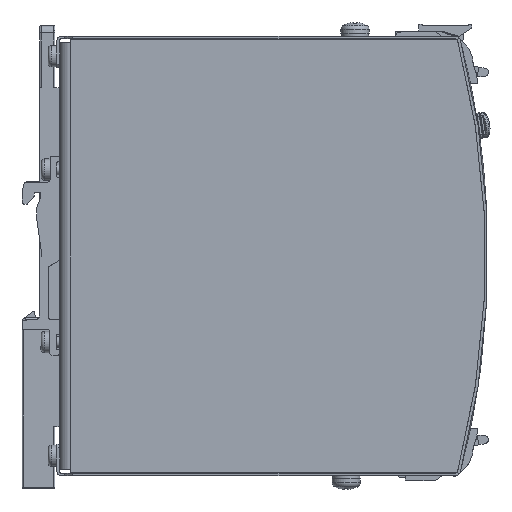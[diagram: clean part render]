
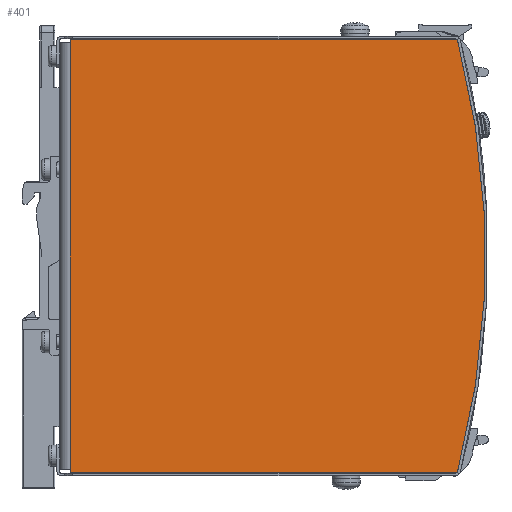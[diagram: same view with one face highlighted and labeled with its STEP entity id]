
A CAD part, front view. The second image highlights one B-rep face of the part: STEP entity #401.
In plain terms, the highlighted planar face has unit normal (0, -1, 0).
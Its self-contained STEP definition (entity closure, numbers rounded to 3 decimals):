
#260=CARTESIAN_POINT('',(112.177,-35.,-60.777));
#261=VERTEX_POINT('',#260);
#262=CARTESIAN_POINT('',(111.693,-35.,-61.15));
#263=VERTEX_POINT('',#262);
#264=CARTESIAN_POINT('',(111.693,-35.,-60.65));
#265=DIRECTION('',(0.0,1.,0.0));
#266=DIRECTION('',(0.611,0.0,-0.792));
#267=AXIS2_PLACEMENT_3D('',#264,#265,#266);
#268=CIRCLE('',#267,0.5);
#269=EDGE_CURVE('',#261,#263,#268,.T.);
#303=CARTESIAN_POINT('',(3.1,-35.,-61.15));
#304=VERTEX_POINT('',#303);
#305=CARTESIAN_POINT('',(111.693,-35.,-61.15));
#306=DIRECTION('',(-1.0,0.0,0.0));
#307=VECTOR('',#306,108.593);
#308=LINE('',#305,#307);
#309=EDGE_CURVE('',#263,#304,#308,.T.);
#328=CARTESIAN_POINT('',(130.0,-35.,-61.15));
#329=DIRECTION('',(0.0,-1.0,0.0));
#330=DIRECTION('',(0.0,0.0,-1.0));
#331=AXIS2_PLACEMENT_3D('',#328,#329,#330);
#332=PLANE('',#331);
#333=ORIENTED_EDGE('',*,*,#269,.F.);
#334=CARTESIAN_POINT('',(112.177,-35.,60.777));
#335=VERTEX_POINT('',#334);
#336=CARTESIAN_POINT('',(-120.,-35.,0.));
#337=DIRECTION('',(0.0,-1.,0.0));
#338=DIRECTION('',(-0.967,0.0,-0.255));
#339=AXIS2_PLACEMENT_3D('',#336,#337,#338);
#340=CIRCLE('',#339,240.0);
#341=EDGE_CURVE('',#261,#335,#340,.T.);
#342=ORIENTED_EDGE('',*,*,#341,.T.);
#343=CARTESIAN_POINT('',(111.693,-35.,61.15));
#344=VERTEX_POINT('',#343);
#345=CARTESIAN_POINT('',(111.693,-35.,60.65));
#346=DIRECTION('',(0.0,1.0,0.0));
#347=DIRECTION('',(0.611,0.0,0.792));
#348=AXIS2_PLACEMENT_3D('',#345,#346,#347);
#349=CIRCLE('',#348,0.5);
#350=EDGE_CURVE('',#344,#335,#349,.T.);
#351=ORIENTED_EDGE('',*,*,#350,.F.);
#352=CARTESIAN_POINT('',(3.1,-35.,61.15));
#353=VERTEX_POINT('',#352);
#354=CARTESIAN_POINT('',(111.693,-35.,61.15));
#355=DIRECTION('',(-1.0,0.0,0.0));
#356=VECTOR('',#355,108.593);
#357=LINE('',#354,#356);
#358=EDGE_CURVE('',#344,#353,#357,.T.);
#359=ORIENTED_EDGE('',*,*,#358,.T.);
#360=CARTESIAN_POINT('',(3.1,-35.,60.15));
#361=VERTEX_POINT('',#360);
#362=CARTESIAN_POINT('',(3.1,-35.0,61.15));
#363=DIRECTION('',(0.0,0.0,-1.0));
#364=VECTOR('',#363,1.);
#365=LINE('',#362,#364);
#366=EDGE_CURVE('',#353,#361,#365,.T.);
#367=ORIENTED_EDGE('',*,*,#366,.T.);
#368=CARTESIAN_POINT('',(3.,-35.,60.15));
#369=VERTEX_POINT('',#368);
#370=CARTESIAN_POINT('',(3.1,-35.0,60.15));
#371=DIRECTION('',(-1.0,0.0,0.0));
#372=VECTOR('',#371,0.1);
#373=LINE('',#370,#372);
#374=EDGE_CURVE('',#361,#369,#373,.T.);
#375=ORIENTED_EDGE('',*,*,#374,.T.);
#376=CARTESIAN_POINT('',(3.,-35.,-60.15));
#377=VERTEX_POINT('',#376);
#378=CARTESIAN_POINT('',(3.,-35.0,60.15));
#379=DIRECTION('',(0.0,0.0,-1.0));
#380=VECTOR('',#379,120.3);
#381=LINE('',#378,#380);
#382=EDGE_CURVE('',#369,#377,#381,.T.);
#383=ORIENTED_EDGE('',*,*,#382,.T.);
#384=CARTESIAN_POINT('',(3.1,-35.,-60.15));
#385=VERTEX_POINT('',#384);
#386=CARTESIAN_POINT('',(3.,-35.0,-60.15));
#387=DIRECTION('',(1.0,0.0,0.0));
#388=VECTOR('',#387,0.1);
#389=LINE('',#386,#388);
#390=EDGE_CURVE('',#377,#385,#389,.T.);
#391=ORIENTED_EDGE('',*,*,#390,.T.);
#392=CARTESIAN_POINT('',(3.1,-35.0,-60.15));
#393=DIRECTION('',(0.0,0.0,-1.0));
#394=VECTOR('',#393,1.0);
#395=LINE('',#392,#394);
#396=EDGE_CURVE('',#385,#304,#395,.T.);
#397=ORIENTED_EDGE('',*,*,#396,.T.);
#398=ORIENTED_EDGE('',*,*,#309,.F.);
#399=EDGE_LOOP('',(#333,#342,#351,#359,#367,#375,#383,#391,#397,#398));
#400=FACE_OUTER_BOUND('',#399,.T.);
#401=ADVANCED_FACE('',(#400),#332,.T.);
